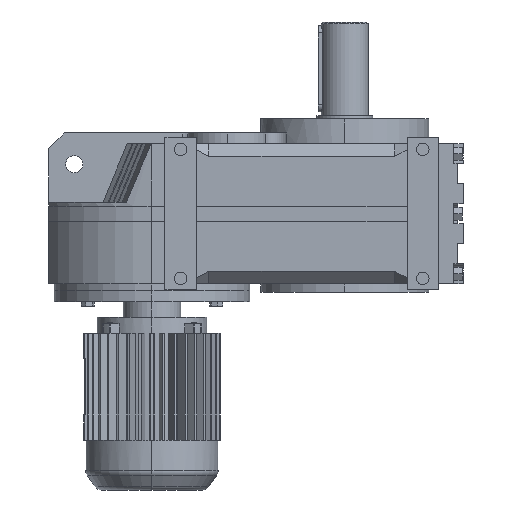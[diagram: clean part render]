
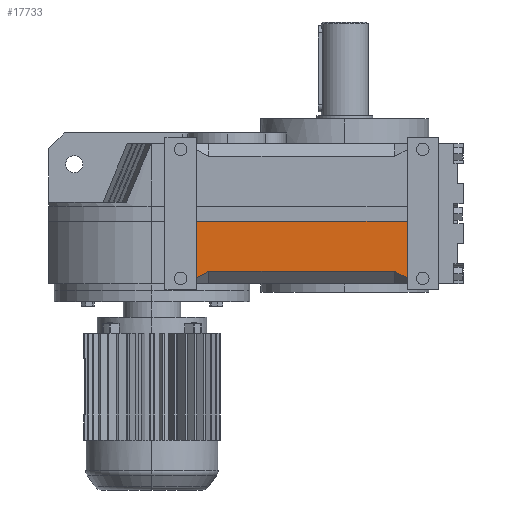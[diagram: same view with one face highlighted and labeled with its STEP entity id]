
A CAD part, left-side view. The second image highlights one B-rep face of the part: STEP entity #17733.
In plain terms, the highlighted planar face has unit normal (-1, 0, 0).
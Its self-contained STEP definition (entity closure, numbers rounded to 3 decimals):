
#2247 = PLANE('',#2248);
#2248 = AXIS2_PLACEMENT_3D('',#2249,#2250,#2251);
#2249 = CARTESIAN_POINT('',(-131.2,-56.7,1.));
#2250 = DIRECTION('',(0.,-1.,0.));
#2251 = DIRECTION('',(0.,0.,-1.));
#2359 = PLANE('',#2360);
#2360 = AXIS2_PLACEMENT_3D('',#2361,#2362,#2363);
#2361 = CARTESIAN_POINT('',(-131.2,-326.7,1.));
#2362 = DIRECTION('',(0.,1.,0.));
#2363 = DIRECTION('',(0.,0.,1.));
#10198 = VERTEX_POINT('',#10199);
#10199 = CARTESIAN_POINT('',(-157.2,-326.7,88.75));
#10213 = PLANE('',#10214);
#10214 = AXIS2_PLACEMENT_3D('',#10215,#10216,#10217);
#10215 = CARTESIAN_POINT('',(-11.809,1.,88.75));
#10216 = DIRECTION('',(0.,0.,-1.));
#10217 = DIRECTION('',(-1.,0.,0.));
#10225 = EDGE_CURVE('',#10226,#10198,#10228,.T.);
#10226 = VERTEX_POINT('',#10227);
#10227 = CARTESIAN_POINT('',(-157.2,-326.7,16.564));
#10228 = SURFACE_CURVE('',#10229,(#10233,#10240),.PCURVE_S1.);
#10229 = LINE('',#10230,#10231);
#10230 = CARTESIAN_POINT('',(-157.2,-326.7,188.2));
#10231 = VECTOR('',#10232,1.);
#10232 = DIRECTION('',(0.,0.,1.));
#10233 = PCURVE('',#2359,#10234);
#10234 = DEFINITIONAL_REPRESENTATION('',(#10235),#10239);
#10235 = LINE('',#10236,#10237);
#10236 = CARTESIAN_POINT('',(187.2,-26.));
#10237 = VECTOR('',#10238,1.);
#10238 = DIRECTION('',(1.,0.));
#10239 = ( GEOMETRIC_REPRESENTATION_CONTEXT(2) 
PARAMETRIC_REPRESENTATION_CONTEXT() REPRESENTATION_CONTEXT('2D SPACE',''
  ) );
#10240 = PCURVE('',#10241,#10246);
#10241 = PLANE('',#10242);
#10242 = AXIS2_PLACEMENT_3D('',#10243,#10244,#10245);
#10243 = CARTESIAN_POINT('',(-157.2,-398.7,188.2));
#10244 = DIRECTION('',(1.,0.,0.));
#10245 = DIRECTION('',(0.,0.,-1.));
#10246 = DEFINITIONAL_REPRESENTATION('',(#10247),#10251);
#10247 = LINE('',#10248,#10249);
#10248 = CARTESIAN_POINT('',(0.,72.));
#10249 = VECTOR('',#10250,1.);
#10250 = DIRECTION('',(-1.,0.));
#10251 = ( GEOMETRIC_REPRESENTATION_CONTEXT(2) 
PARAMETRIC_REPRESENTATION_CONTEXT() REPRESENTATION_CONTEXT('2D SPACE',''
  ) );
#10269 = PLANE('',#10270);
#10270 = AXIS2_PLACEMENT_3D('',#10271,#10272,#10273);
#10271 = CARTESIAN_POINT('',(-136.418,-326.7,-4.218));
#10272 = DIRECTION('',(0.664,-0.342,0.664));
#10273 = DIRECTION('',(0.707,0.,-0.707));
#11400 = VERTEX_POINT('',#11401);
#11401 = CARTESIAN_POINT('',(-157.2,-56.7,16.564));
#11415 = PLANE('',#11416);
#11416 = AXIS2_PLACEMENT_3D('',#11417,#11418,#11419);
#11417 = CARTESIAN_POINT('',(-136.418,-56.7,-4.218));
#11418 = DIRECTION('',(0.664,0.342,0.664));
#11419 = DIRECTION('',(0.707,0.,-0.707));
#11427 = EDGE_CURVE('',#11428,#11400,#11430,.T.);
#11428 = VERTEX_POINT('',#11429);
#11429 = CARTESIAN_POINT('',(-157.2,-56.7,88.75));
#11430 = SURFACE_CURVE('',#11431,(#11435,#11442),.PCURVE_S1.);
#11431 = LINE('',#11432,#11433);
#11432 = CARTESIAN_POINT('',(-157.2,-56.7,188.2));
#11433 = VECTOR('',#11434,1.);
#11434 = DIRECTION('',(0.,0.,-1.));
#11435 = PCURVE('',#2247,#11436);
#11436 = DEFINITIONAL_REPRESENTATION('',(#11437),#11441);
#11437 = LINE('',#11438,#11439);
#11438 = CARTESIAN_POINT('',(-187.2,-26.));
#11439 = VECTOR('',#11440,1.);
#11440 = DIRECTION('',(1.,0.));
#11441 = ( GEOMETRIC_REPRESENTATION_CONTEXT(2) 
PARAMETRIC_REPRESENTATION_CONTEXT() REPRESENTATION_CONTEXT('2D SPACE',''
  ) );
#11442 = PCURVE('',#10241,#11443);
#11443 = DEFINITIONAL_REPRESENTATION('',(#11444),#11448);
#11444 = LINE('',#11445,#11446);
#11445 = CARTESIAN_POINT('',(0.,342.));
#11446 = VECTOR('',#11447,1.);
#11447 = DIRECTION('',(1.,0.));
#11448 = ( GEOMETRIC_REPRESENTATION_CONTEXT(2) 
PARAMETRIC_REPRESENTATION_CONTEXT() REPRESENTATION_CONTEXT('2D SPACE',''
  ) );
#14676 = PLANE('',#14677);
#14677 = AXIS2_PLACEMENT_3D('',#14678,#14679,#14680);
#14678 = CARTESIAN_POINT('',(-157.2,-398.7,24.8));
#14679 = DIRECTION('',(0.707,0.,0.707));
#14680 = DIRECTION('',(0.707,0.,-0.707));
#17688 = EDGE_CURVE('',#17689,#10226,#17691,.T.);
#17689 = VERTEX_POINT('',#17690);
#17690 = CARTESIAN_POINT('',(-157.2,-310.7,24.8));
#17691 = SURFACE_CURVE('',#17692,(#17696,#17703),.PCURVE_S1.);
#17692 = LINE('',#17693,#17694);
#17693 = CARTESIAN_POINT('',(-157.2,-313.777,23.216));
#17694 = VECTOR('',#17695,1.);
#17695 = DIRECTION('',(0.,-0.889,-0.458));
#17696 = PCURVE('',#10269,#17697);
#17697 = DEFINITIONAL_REPRESENTATION('',(#17698),#17702);
#17698 = LINE('',#17699,#17700);
#17699 = CARTESIAN_POINT('',(-34.094,13.752));
#17700 = VECTOR('',#17701,1.);
#17701 = DIRECTION('',(0.324,-0.946));
#17702 = ( GEOMETRIC_REPRESENTATION_CONTEXT(2) 
PARAMETRIC_REPRESENTATION_CONTEXT() REPRESENTATION_CONTEXT('2D SPACE',''
  ) );
#17703 = PCURVE('',#10241,#17704);
#17704 = DEFINITIONAL_REPRESENTATION('',(#17705),#17709);
#17705 = LINE('',#17706,#17707);
#17706 = CARTESIAN_POINT('',(164.984,84.923));
#17707 = VECTOR('',#17708,1.);
#17708 = DIRECTION('',(0.458,-0.889));
#17709 = ( GEOMETRIC_REPRESENTATION_CONTEXT(2) 
PARAMETRIC_REPRESENTATION_CONTEXT() REPRESENTATION_CONTEXT('2D SPACE',''
  ) );
#17733 = ADVANCED_FACE('',(#17734),#10241,.F.);
#17734 = FACE_BOUND('',#17735,.T.);
#17735 = EDGE_LOOP('',(#17736,#17737,#17760,#17781,#17782,#17783));
#17736 = ORIENTED_EDGE('',*,*,#11427,.T.);
#17737 = ORIENTED_EDGE('',*,*,#17738,.T.);
#17738 = EDGE_CURVE('',#11400,#17739,#17741,.T.);
#17739 = VERTEX_POINT('',#17740);
#17740 = CARTESIAN_POINT('',(-157.2,-72.7,24.8));
#17741 = SURFACE_CURVE('',#17742,(#17746,#17753),.PCURVE_S1.);
#17742 = LINE('',#17743,#17744);
#17743 = CARTESIAN_POINT('',(-157.2,-396.909,191.68));
#17744 = VECTOR('',#17745,1.);
#17745 = DIRECTION('',(0.,-0.889,0.458));
#17746 = PCURVE('',#10241,#17747);
#17747 = DEFINITIONAL_REPRESENTATION('',(#17748),#17752);
#17748 = LINE('',#17749,#17750);
#17749 = CARTESIAN_POINT('',(-3.48,1.791));
#17750 = VECTOR('',#17751,1.);
#17751 = DIRECTION('',(-0.458,-0.889));
#17752 = ( GEOMETRIC_REPRESENTATION_CONTEXT(2) 
PARAMETRIC_REPRESENTATION_CONTEXT() REPRESENTATION_CONTEXT('2D SPACE',''
  ) );
#17753 = PCURVE('',#11415,#17754);
#17754 = DEFINITIONAL_REPRESENTATION('',(#17755),#17759);
#17755 = LINE('',#17756,#17757);
#17756 = CARTESIAN_POINT('',(-153.216,-362.042));
#17757 = VECTOR('',#17758,1.);
#17758 = DIRECTION('',(-0.324,-0.946));
#17759 = ( GEOMETRIC_REPRESENTATION_CONTEXT(2) 
PARAMETRIC_REPRESENTATION_CONTEXT() REPRESENTATION_CONTEXT('2D SPACE',''
  ) );
#17760 = ORIENTED_EDGE('',*,*,#17761,.T.);
#17761 = EDGE_CURVE('',#17739,#17689,#17762,.T.);
#17762 = SURFACE_CURVE('',#17763,(#17767,#17774),.PCURVE_S1.);
#17763 = LINE('',#17764,#17765);
#17764 = CARTESIAN_POINT('',(-157.2,-398.7,24.8));
#17765 = VECTOR('',#17766,1.);
#17766 = DIRECTION('',(0.,-1.,0.));
#17767 = PCURVE('',#10241,#17768);
#17768 = DEFINITIONAL_REPRESENTATION('',(#17769),#17773);
#17769 = LINE('',#17770,#17771);
#17770 = CARTESIAN_POINT('',(163.4,0.));
#17771 = VECTOR('',#17772,1.);
#17772 = DIRECTION('',(0.,-1.));
#17773 = ( GEOMETRIC_REPRESENTATION_CONTEXT(2) 
PARAMETRIC_REPRESENTATION_CONTEXT() REPRESENTATION_CONTEXT('2D SPACE',''
  ) );
#17774 = PCURVE('',#14676,#17775);
#17775 = DEFINITIONAL_REPRESENTATION('',(#17776),#17780);
#17776 = LINE('',#17777,#17778);
#17777 = CARTESIAN_POINT('',(0.,0.));
#17778 = VECTOR('',#17779,1.);
#17779 = DIRECTION('',(0.,-1.));
#17780 = ( GEOMETRIC_REPRESENTATION_CONTEXT(2) 
PARAMETRIC_REPRESENTATION_CONTEXT() REPRESENTATION_CONTEXT('2D SPACE',''
  ) );
#17781 = ORIENTED_EDGE('',*,*,#17688,.T.);
#17782 = ORIENTED_EDGE('',*,*,#10225,.T.);
#17783 = ORIENTED_EDGE('',*,*,#17784,.T.);
#17784 = EDGE_CURVE('',#10198,#11428,#17785,.T.);
#17785 = SURFACE_CURVE('',#17786,(#17790,#17797),.PCURVE_S1.);
#17786 = LINE('',#17787,#17788);
#17787 = CARTESIAN_POINT('',(-157.2,-398.7,88.75));
#17788 = VECTOR('',#17789,1.);
#17789 = DIRECTION('',(0.,1.,0.));
#17790 = PCURVE('',#10241,#17791);
#17791 = DEFINITIONAL_REPRESENTATION('',(#17792),#17796);
#17792 = LINE('',#17793,#17794);
#17793 = CARTESIAN_POINT('',(99.45,0.));
#17794 = VECTOR('',#17795,1.);
#17795 = DIRECTION('',(0.,1.));
#17796 = ( GEOMETRIC_REPRESENTATION_CONTEXT(2) 
PARAMETRIC_REPRESENTATION_CONTEXT() REPRESENTATION_CONTEXT('2D SPACE',''
  ) );
#17797 = PCURVE('',#10213,#17798);
#17798 = DEFINITIONAL_REPRESENTATION('',(#17799),#17803);
#17799 = LINE('',#17800,#17801);
#17800 = CARTESIAN_POINT('',(145.391,-399.7));
#17801 = VECTOR('',#17802,1.);
#17802 = DIRECTION('',(0.,1.));
#17803 = ( GEOMETRIC_REPRESENTATION_CONTEXT(2) 
PARAMETRIC_REPRESENTATION_CONTEXT() REPRESENTATION_CONTEXT('2D SPACE',''
  ) );
